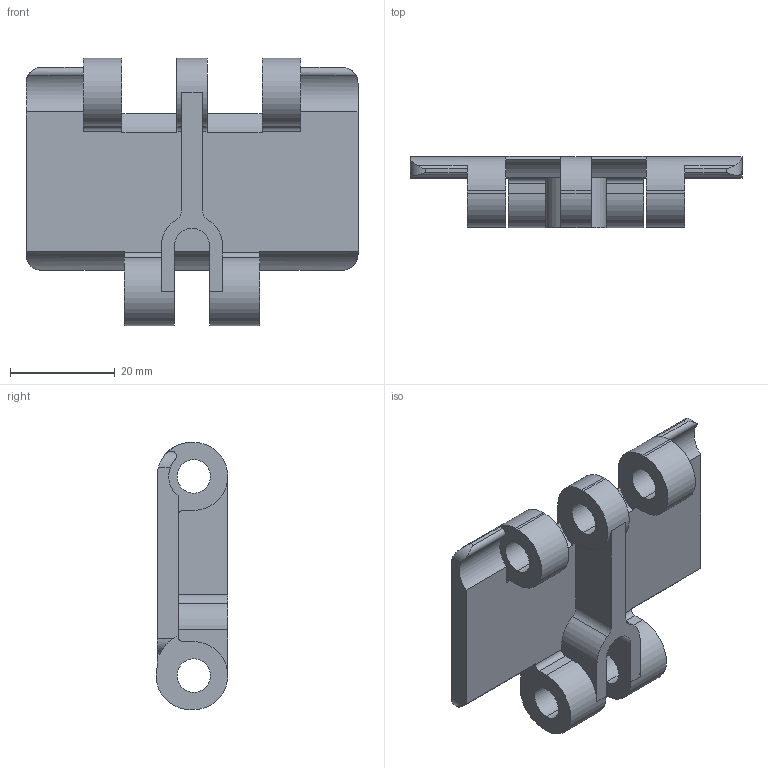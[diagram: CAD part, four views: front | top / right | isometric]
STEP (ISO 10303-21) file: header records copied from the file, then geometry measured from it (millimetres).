
FILE_DESCRIPTION (( 'STEP AP214' ), '1' );
FILE_NAME ('820_K250.STEP', '2011-04-14T11:48:28', ( '.' ), ( '' ), 'SwSTEP 2.0', 'SolidWorks 2010', '' );
FILE_SCHEMA (( 'AUTOMOTIVE_DESIGN' ));
Length unit declared in the file: millimetre
Products named in the file (1): 820_K250
Bounding box: 63.5 x 13.68 x 51.1 mm (x, y, z)
Volume: 13023.2 mm3; surface area: 8558.4 mm2
Topology: 1 solids, 1 shells, 85 faces, 249 edges, 166 vertices
Faces by surface type: cylinder 51, plane 34
Entity records: 3009 total; most frequent: CARTESIAN_POINT 621, DIRECTION 505, ORIENTED_EDGE 498, EDGE_CURVE 249, AXIS2_PLACEMENT_3D 182, VERTEX_POINT 166, VECTOR 141, LINE 141
